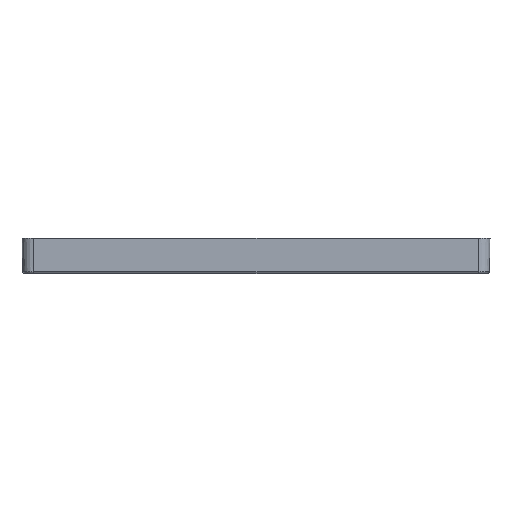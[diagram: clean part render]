
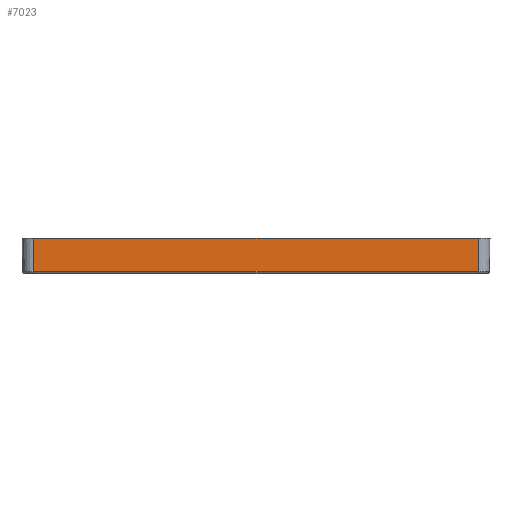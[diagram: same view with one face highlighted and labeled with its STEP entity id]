
A CAD part, top view. The second image highlights one B-rep face of the part: STEP entity #7023.
In plain terms, the highlighted planar face has unit normal (0, -0.018, 1).
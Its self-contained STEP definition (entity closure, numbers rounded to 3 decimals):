
#341 = EDGE_CURVE ( 'NONE', #21827, #10921, #13343, .T. ) ;
#842 = VECTOR ( 'NONE', #27067, 1000. ) ;
#1481 = VECTOR ( 'NONE', #14040, 1000. ) ;
#2555 = VERTEX_POINT ( 'NONE', #4967 ) ;
#2671 = EDGE_CURVE ( 'NONE', #2555, #15151, #18163, .T. ) ;
#2769 = ORIENTED_EDGE ( 'NONE', *, *, #2671, .T. ) ;
#4967 = CARTESIAN_POINT ( 'NONE',  ( 204.6, 15.6, 0.172 ) ) ;
#5765 = LINE ( 'NONE', #26575, #1481 ) ;
#6324 = VECTOR ( 'NONE', #17542, 1000. ) ;
#6665 = CARTESIAN_POINT ( 'NONE',  ( 5., 15.6, 0.172 ) ) ;
#7023 = ADVANCED_FACE ( 'NONE', ( #18700 ), #26472, .T. ) ;
#7031 = EDGE_LOOP ( 'NONE', ( #16276, #22740, #9424, #2769 ) ) ;
#7587 = DIRECTION ( 'NONE',  ( 0., -1., -0.017 ) ) ;
#8454 = DIRECTION ( 'NONE',  ( 0., -1., -0.017 ) ) ;
#9424 = ORIENTED_EDGE ( 'NONE', *, *, #11037, .F. ) ;
#9429 = CARTESIAN_POINT ( 'NONE',  ( 204.6, 15.6, 0.172 ) ) ;
#9621 = CARTESIAN_POINT ( 'NONE',  ( 204.6, 0., -0.1 ) ) ;
#10794 = CARTESIAN_POINT ( 'NONE',  ( 204.6, 0.786, -0.086 ) ) ;
#10921 = VERTEX_POINT ( 'NONE', #10794 ) ;
#11037 = EDGE_CURVE ( 'NONE', #2555, #10921, #5765, .T. ) ;
#12885 = EDGE_CURVE ( 'NONE', #15151, #21827, #22722, .T. ) ;
#13343 = LINE ( 'NONE', #14811, #842 ) ;
#14040 = DIRECTION ( 'NONE',  ( 0., -1., -0.017 ) ) ;
#14230 = VECTOR ( 'NONE', #8454, 1000. ) ;
#14811 = CARTESIAN_POINT ( 'NONE',  ( 204.6, 0.786, -0.086 ) ) ;
#15151 = VERTEX_POINT ( 'NONE', #6665 ) ;
#16276 = ORIENTED_EDGE ( 'NONE', *, *, #12885, .T. ) ;
#17069 = AXIS2_PLACEMENT_3D ( 'NONE', #9621, #20519, #7587 ) ;
#17542 = DIRECTION ( 'NONE',  ( -1., 0., 0. ) ) ;
#18163 = LINE ( 'NONE', #9429, #6324 ) ;
#18700 = FACE_OUTER_BOUND ( 'NONE', #7031, .T. ) ;
#20519 = DIRECTION ( 'NONE',  ( 0., -0.017, 1. ) ) ;
#21180 = CARTESIAN_POINT ( 'NONE',  ( 5., 0.786, -0.086 ) ) ;
#21827 = VERTEX_POINT ( 'NONE', #21180 ) ;
#22722 = LINE ( 'NONE', #23130, #14230 ) ;
#22740 = ORIENTED_EDGE ( 'NONE', *, *, #341, .T. ) ;
#23130 = CARTESIAN_POINT ( 'NONE',  ( 5., 0., -0.1 ) ) ;
#26472 = PLANE ( 'NONE',  #17069 ) ;
#26575 = CARTESIAN_POINT ( 'NONE',  ( 204.6, 0., -0.1 ) ) ;
#27067 = DIRECTION ( 'NONE',  ( 1., 0., 0. ) ) ;
